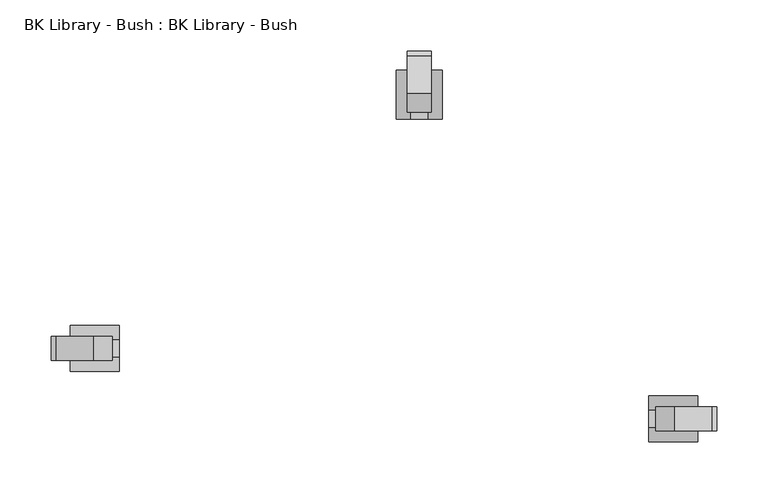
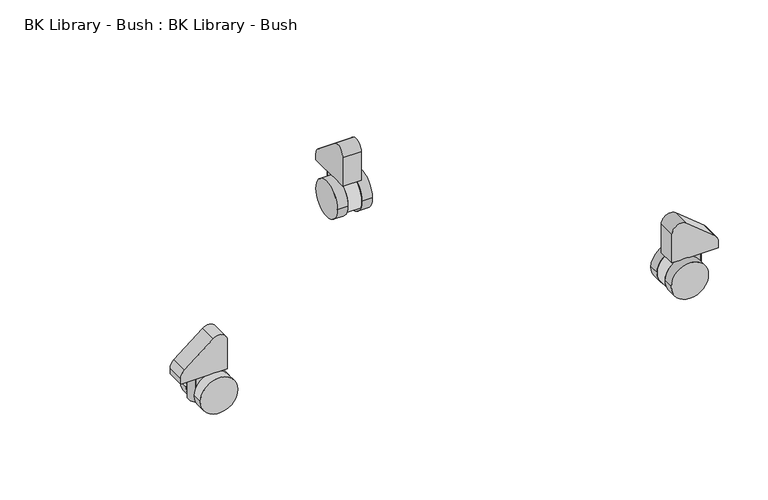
"""IFC4 building model written with IfcOpenShell, lengths in millimetres: furniture geometry, BK Library - Bush : BK Library - Bush."""

from ifc_helpers import new_model, si_unit, point, frame, frame_2d, origin, place, context, project, spatial, polyline, circle_curve, trimmed, segment, composite_curve, outline, extrude, source, transform, mapped, element, save
from ifc_brep_helpers import plane_surface, cylinder_surface, advanced_brep


def bk_library_bush_bk_library_bush_e0a5e469(model_context):
    return source(origin(), model_context, "Body", "SolidModel", [
        advanced_brep(
        [(307.0845713, -12.0, 24.0), (261.0097125, -12.0, 14.5818999), (259.0845713, -12.0, 24.0), (279.1656621, -12.0, 47.6778831), (307.0845713, -25.5, 24.0), (279.1656621, -25.5, 47.6778831), (259.0845713, -25.5, 24.0), (261.0097125, -25.5, 14.5818999)],
        [
            (0, 1, circle_curve(frame((283.0845713, -12.0, 24.0), z_axis=(0.0, 1.0, 0.0), x_axis=(-1.0, 0.0, 0.0)), 24.0)),
            (1, 2, circle_curve(frame((283.0845713, -12.0, 24.0), z_axis=(0.0, 1.0, 0.0), x_axis=(-1.0, 0.0, 0.0)), 24.0)),
            (2, 3, circle_curve(frame((283.0845713, -12.0, 24.0), z_axis=(0.0, 1.0, 0.0), x_axis=(-1.0, 0.0, 0.0)), 24.0)),
            (3, 0, circle_curve(frame((283.0845713, -12.0, 24.0), z_axis=(0.0, 1.0, 0.0), x_axis=(-1.0, 0.0, 0.0)), 24.0)),
            (4, 5, circle_curve(frame((283.0845713, -25.5, 24.0), z_axis=(0.0, -1.0, 0.0), x_axis=(-1.0, 0.0, 0.0)), 24.0)),
            (5, 6, circle_curve(frame((283.0845713, -25.5, 24.0), z_axis=(0.0, -1.0, 0.0), x_axis=(-1.0, 0.0, 0.0)), 24.0)),
            (6, 7, circle_curve(frame((283.0845713, -25.5, 24.0), z_axis=(0.0, -1.0, 0.0), x_axis=(-1.0, 0.0, 0.0)), 24.0)),
            (7, 4, circle_curve(frame((283.0845713, -25.5, 24.0), z_axis=(0.0, -1.0, 0.0), x_axis=(-1.0, 0.0, 0.0)), 24.0)),
            (0, 4),
            (6, 2),
        ],
        [
            plane_surface(frame((259.0845713, -12.0, 24.0), z_axis=(0.0, 1.0, 0.0), x_axis=(0.0, 0.0, 1.0))),
            plane_surface(frame((259.0845713, -25.5, 24.0), z_axis=(0.0, -1.0, 0.0), x_axis=(0.0, 0.0, -1.0))),
            cylinder_surface(frame((283.0845713, -25.5, 24.0), z_axis=(0.0, 1.0, 0.0), x_axis=(-1.0, 0.0, 0.0)), 24.0),
        ],
        [
            (0, [[1, 2, 3, 4]]),
            (1, [[5, 6, 7, 8]]),
            (2, [[9, -8, -7, 10, -2, -1]]),
            (2, [[-9, -4, -3, -10, -6, -5]]),
        ],
    ),
        advanced_brep(
        [(307.0845713, -43.5, 24.0), (261.0097125, -43.5, 14.5818999), (259.0845713, -43.5, 24.0), (279.1656621, -43.5, 47.6778831), (307.0845713, -57.0, 24.0), (279.1656621, -57.0, 47.6778831), (259.0845713, -57.0, 24.0), (261.0097125, -57.0, 14.5818999)],
        [
            (0, 1, circle_curve(frame((283.0845713, -43.5, 24.0), z_axis=(0.0, 1.0, 0.0), x_axis=(-1.0, 0.0, 0.0)), 24.0)),
            (1, 2, circle_curve(frame((283.0845713, -43.5, 24.0), z_axis=(0.0, 1.0, 0.0), x_axis=(-1.0, 0.0, 0.0)), 24.0)),
            (2, 3, circle_curve(frame((283.0845713, -43.5, 24.0), z_axis=(0.0, 1.0, 0.0), x_axis=(-1.0, 0.0, 0.0)), 24.0)),
            (3, 0, circle_curve(frame((283.0845713, -43.5, 24.0), z_axis=(0.0, 1.0, 0.0), x_axis=(-1.0, 0.0, 0.0)), 24.0)),
            (4, 5, circle_curve(frame((283.0845713, -57.0, 24.0), z_axis=(0.0, -1.0, 0.0), x_axis=(-1.0, 0.0, 0.0)), 24.0)),
            (5, 6, circle_curve(frame((283.0845713, -57.0, 24.0), z_axis=(0.0, -1.0, 0.0), x_axis=(-1.0, 0.0, 0.0)), 24.0)),
            (6, 7, circle_curve(frame((283.0845713, -57.0, 24.0), z_axis=(0.0, -1.0, 0.0), x_axis=(-1.0, 0.0, 0.0)), 24.0)),
            (7, 4, circle_curve(frame((283.0845713, -57.0, 24.0), z_axis=(0.0, -1.0, 0.0), x_axis=(-1.0, 0.0, 0.0)), 24.0)),
            (0, 4),
            (6, 2),
        ],
        [
            plane_surface(frame((259.0845713, -43.5, 24.0), z_axis=(0.0, 1.0, 0.0), x_axis=(0.0, 0.0, 1.0))),
            plane_surface(frame((259.0845713, -57.0, 24.0), z_axis=(0.0, -1.0, 0.0), x_axis=(0.0, 0.0, -1.0))),
            cylinder_surface(frame((283.0845713, -57.0, 24.0), z_axis=(0.0, 1.0, 0.0), x_axis=(-1.0, 0.0, 0.0)), 24.0),
        ],
        [
            (0, [[1, 2, 3, 4]]),
            (1, [[5, 6, 7, 8]]),
            (2, [[9, -8, -7, 10, -2, -1]]),
            (2, [[-9, -4, -3, -10, -6, -5]]),
        ],
    ),
        advanced_brep(
        [(304.4456511, -43.5, 47.6778831), (305.4378078, -43.125, 47.6778831), (305.4378078, -25.875, 47.6778831), (304.4456511, -25.5, 47.6778831), (279.1656621, -25.5, 47.6778831), (279.1656621, -43.5, 47.6778831), (304.4456511, -25.5, 14.5818999), (305.4378078, -25.875, 14.5818999), (305.4378078, -43.125, 14.5818999), (304.4456511, -43.5, 14.5818999), (261.0097125, -43.5, 14.5818999), (261.0097125, -25.5, 14.5818999)],
        [
            (0, 1, circle_curve(frame((304.4456511, -42.0, 47.6778831), z_axis=(0.0, 0.0, 1.0), x_axis=(-1.0, 0.0, 0.0)), 1.5)),
            (1, 2, circle_curve(frame((297.8312728, -34.5, 47.6778831), z_axis=(0.0, 0.0, 1.0), x_axis=(-0.9895943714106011, -0.14388530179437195, 0.0)), 11.5)),
            (2, 3, circle_curve(frame((304.4456511, -27.0, 47.6778831), z_axis=(0.0, 0.0, 1.0), x_axis=(-1.0, 0.0, 0.0)), 1.5)),
            (3, 4),
            (4, 5),
            (5, 0),
            (6, 7, circle_curve(frame((304.4456511, -27.0, 14.5818999), z_axis=(0.0, 0.0, -1.0), x_axis=(-1.0, 0.0, 0.0)), 1.5)),
            (7, 8, circle_curve(frame((297.8312728, -34.5, 14.5818999), z_axis=(0.0, 0.0, -1.0), x_axis=(-0.9895943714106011, -0.14388530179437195, 0.0)), 11.5)),
            (8, 9, circle_curve(frame((304.4456511, -42.0, 14.5818999), z_axis=(0.0, 0.0, -1.0), x_axis=(-1.0, 0.0, 0.0)), 1.5)),
            (9, 10),
            (10, 11),
            (11, 6),
            (9, 0),
            (5, 10, circle_curve(frame((283.0845713, -43.5, 24.0), z_axis=(0.0, -1.0, 0.0), x_axis=(-1.0, 0.0, 0.0)), 24.0)),
            (1, 8),
            (7, 2),
            (3, 6),
            (11, 4, circle_curve(frame((283.0845713, -25.5, 24.0), z_axis=(0.0, 1.0, 0.0), x_axis=(-1.0, 0.0, 0.0)), 24.0)),
        ],
        [
            plane_surface(frame((304.9901834, -43.5, 47.6778831), z_axis=(0.0, 0.0, 1.0), x_axis=(1.0, 0.0, 0.0))),
            plane_surface(frame((304.9901834, -43.5, 14.5818999), z_axis=(0.0, 0.0, -1.0), x_axis=(-1.0, 0.0, 0.0))),
            plane_surface(frame((258.3703709, -43.5, 47.6778831), z_axis=(0.0, -1.0, 0.0), x_axis=(0.0, 0.0, -1.0))),
            cylinder_surface(frame((297.8312728, -34.5, 14.5818999), z_axis=(0.0, 0.0, 1.0000000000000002), x_axis=(-0.9895943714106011, -0.14388530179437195, 0.0)), 11.5),
            plane_surface(frame((304.4456511, -25.5, 47.6778831), z_axis=(0.0, 1.0, 0.0), x_axis=(0.0, 0.0, -1.0))),
            cylinder_surface(frame((304.4456511, -42.0, 14.5818999), z_axis=(0.0, 0.0, 1.0), x_axis=(-1.0, 0.0, 0.0)), 1.5),
            cylinder_surface(frame((304.4456511, -27.0, 14.5818999), z_axis=(0.0, 0.0, 1.0), x_axis=(-1.0, 0.0, 0.0)), 1.5),
            cylinder_surface(frame((283.0845713, -97.270464, 24.0), z_axis=(0.0, -1.0, 0.0), x_axis=(-1.0, 0.0, 0.0)), 24.0),
        ],
        [
            (0, [[1, 2, 3, 4, 5, 6]]),
            (1, [[7, 8, 9, 10, 11, 12]]),
            (2, [[13, -6, 14, -10]]),
            (3, [[-2, 15, -8, 16]]),
            (4, [[17, -12, 18, -4]]),
            (5, [[-1, -13, -9, -15]]),
            (6, [[-3, -16, -7, -17]]),
            (7, [[-5, -18, -11, -14]]),
        ],
    ),
        advanced_brep(
        [(321.3539823, -23.0, 65.3227941), (326.0, -23.0, 55.5979035), (325.9997219, -23.0, 47.6778831), (279.1656621, -23.0, 47.6778831), (266.0, -23.0, 47.6778831), (266.0, -23.0, 86.3778831), (284.4, -23.0, 95.1687875), (321.3539823, -46.5, 65.3227941), (284.4, -46.5, 95.1687875), (266.0, -46.5, 86.3778831), (266.0, -46.5, 47.6778831), (279.1656621, -46.5, 47.6778831), (325.9997219, -46.5, 47.6778831), (326.0, -46.5, 55.5979035)],
        [
            (0, 1, circle_curve(frame((313.5, -23.0, 55.5983424), z_axis=(0.0, 1.0, 0.0), x_axis=(-0.999999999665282, 0.0, 2.587346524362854e-05)), 12.5)),
            (1, 2),
            (2, 3),
            (3, 4),
            (4, 5),
            (5, 6, circle_curve(frame((277.3, -23.0, 86.3778831), z_axis=(0.0, 1.0, 0.0), x_axis=(-0.999999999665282, 0.0, 2.5873465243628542e-05)), 11.3)),
            (6, 0),
            (7, 8),
            (8, 9, circle_curve(frame((277.3, -46.5, 86.3778831), z_axis=(0.0, -1.0, 0.0), x_axis=(-0.999999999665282, 0.0, 2.5873465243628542e-05)), 11.3)),
            (9, 10),
            (10, 11),
            (11, 12),
            (12, 13),
            (13, 7, circle_curve(frame((313.5, -46.5, 55.5983424), z_axis=(0.0, -1.0, 0.0), x_axis=(-0.999999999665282, 0.0, 2.587346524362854e-05)), 12.5)),
            (0, 7),
            (13, 1),
            (12, 2),
            (10, 4),
            (9, 5),
            (8, 6),
        ],
        [
            plane_surface(frame((301.0, -23.0, 55.5986658), z_axis=(0.0, 1.0000000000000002, 0.0), x_axis=(2.5873465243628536e-05, 0.0, 0.999999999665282))),
            plane_surface(frame((301.0, -46.5, 55.5986658), z_axis=(0.0, -1.0000000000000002, 0.0), x_axis=(-2.5873465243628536e-05, 0.0, -0.999999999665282))),
            cylinder_surface(frame((313.5, -46.5, 55.5983424), z_axis=(0.0, 1.0000000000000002, 0.0), x_axis=(-0.999999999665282, 0.0, 2.587346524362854e-05)), 12.5),
            plane_surface(frame((326.0, -23.0, 55.5979035), z_axis=(0.9999999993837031, 0.0, -3.510831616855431e-05), x_axis=(0.0, -1.0, 0.0))),
            plane_surface(frame((325.9997219, -23.0, 47.6778831), z_axis=(0.0, 0.0, -1.0), x_axis=(0.0, -1.0, 0.0))),
            plane_surface(frame((266.0, -23.0, 47.6778831), z_axis=(-1.0, 0.0, 0.0), x_axis=(0.0, -1.0, 0.0))),
            cylinder_surface(frame((277.3, -46.5, 86.3778831), z_axis=(0.0, 1.0000000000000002, 0.0), x_axis=(-0.999999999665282, 0.0, 2.5873465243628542e-05)), 11.3),
            plane_surface(frame((284.4, -23.0, 95.1687875), z_axis=(0.6283185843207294, 0.0, 0.7779561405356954), x_axis=(0.0, -1.0, 0.0))),
        ],
        [
            (0, [[1, 2, 3, 4, 5, 6, 7]]),
            (1, [[8, 9, 10, 11, 12, 13, 14]]),
            (2, [[-1, 15, -14, 16]]),
            (3, [[-2, -16, -13, 17]]),
            (4, [[-17, -12, -11, 18, -4, -3]]),
            (5, [[-5, -18, -10, 19]]),
            (6, [[-6, -19, -9, 20]]),
            (7, [[-7, -20, -8, -15]]),
        ],
    ),
        advanced_brep(
        [(12.0, 307.0845713, 24.0), (12.0, 261.0097125, 14.5818999), (12.0, 259.0845713, 24.0), (12.0, 279.1656621, 47.6778831), (25.5, 307.0845713, 24.0), (25.5, 279.1656621, 47.6778831), (25.5, 259.0845713, 24.0), (25.5, 261.0097125, 14.5818999)],
        [
            (0, 1, circle_curve(frame((12.0, 283.0845713, 24.0), z_axis=(-1.0, 0.0, 0.0), x_axis=(0.0, -1.0, 0.0)), 24.0)),
            (1, 2, circle_curve(frame((12.0, 283.0845713, 24.0), z_axis=(-1.0, 0.0, 0.0), x_axis=(0.0, -1.0, 0.0)), 24.0)),
            (2, 3, circle_curve(frame((12.0, 283.0845713, 24.0), z_axis=(-1.0, 0.0, 0.0), x_axis=(0.0, -1.0, 0.0)), 24.0)),
            (3, 0, circle_curve(frame((12.0, 283.0845713, 24.0), z_axis=(-1.0, 0.0, 0.0), x_axis=(0.0, -1.0, 0.0)), 24.0)),
            (4, 5, circle_curve(frame((25.5, 283.0845713, 24.0), z_axis=(1.0, 0.0, 0.0), x_axis=(0.0, -1.0, 0.0)), 24.0)),
            (5, 6, circle_curve(frame((25.5, 283.0845713, 24.0), z_axis=(1.0, 0.0, 0.0), x_axis=(0.0, -1.0, 0.0)), 24.0)),
            (6, 7, circle_curve(frame((25.5, 283.0845713, 24.0), z_axis=(1.0, 0.0, 0.0), x_axis=(0.0, -1.0, 0.0)), 24.0)),
            (7, 4, circle_curve(frame((25.5, 283.0845713, 24.0), z_axis=(1.0, 0.0, 0.0), x_axis=(0.0, -1.0, 0.0)), 24.0)),
            (0, 4),
            (6, 2),
        ],
        [
            plane_surface(frame((12.0, 259.0845713, 24.0), z_axis=(-1.0, 0.0, 0.0), x_axis=(0.0, 0.0, 1.0))),
            plane_surface(frame((25.5, 259.0845713, 24.0), z_axis=(1.0, 0.0, 0.0), x_axis=(0.0, 0.0, -1.0))),
            cylinder_surface(frame((25.5, 283.0845713, 24.0), z_axis=(-1.0, 0.0, 0.0), x_axis=(0.0, -1.0, 0.0)), 24.0),
        ],
        [
            (0, [[1, 2, 3, 4]]),
            (1, [[5, 6, 7, 8]]),
            (2, [[9, -8, -7, 10, -2, -1]]),
            (2, [[-9, -4, -3, -10, -6, -5]]),
        ],
    ),
        advanced_brep(
        [(43.5, 307.0845713, 24.0), (43.5, 261.0097125, 14.5818999), (43.5, 259.0845713, 24.0), (43.5, 279.1656621, 47.6778831), (57.0, 307.0845713, 24.0), (57.0, 279.1656621, 47.6778831), (57.0, 259.0845713, 24.0), (57.0, 261.0097125, 14.5818999)],
        [
            (0, 1, circle_curve(frame((43.5, 283.0845713, 24.0), z_axis=(-1.0, 0.0, 0.0), x_axis=(0.0, -1.0, 0.0)), 24.0)),
            (1, 2, circle_curve(frame((43.5, 283.0845713, 24.0), z_axis=(-1.0, 0.0, 0.0), x_axis=(0.0, -1.0, 0.0)), 24.0)),
            (2, 3, circle_curve(frame((43.5, 283.0845713, 24.0), z_axis=(-1.0, 0.0, 0.0), x_axis=(0.0, -1.0, 0.0)), 24.0)),
            (3, 0, circle_curve(frame((43.5, 283.0845713, 24.0), z_axis=(-1.0, 0.0, 0.0), x_axis=(0.0, -1.0, 0.0)), 24.0)),
            (4, 5, circle_curve(frame((57.0, 283.0845713, 24.0), z_axis=(1.0, 0.0, 0.0), x_axis=(0.0, -1.0, 0.0)), 24.0)),
            (5, 6, circle_curve(frame((57.0, 283.0845713, 24.0), z_axis=(1.0, 0.0, 0.0), x_axis=(0.0, -1.0, 0.0)), 24.0)),
            (6, 7, circle_curve(frame((57.0, 283.0845713, 24.0), z_axis=(1.0, 0.0, 0.0), x_axis=(0.0, -1.0, 0.0)), 24.0)),
            (7, 4, circle_curve(frame((57.0, 283.0845713, 24.0), z_axis=(1.0, 0.0, 0.0), x_axis=(0.0, -1.0, 0.0)), 24.0)),
            (0, 4),
            (6, 2),
        ],
        [
            plane_surface(frame((43.5, 259.0845713, 24.0), z_axis=(-1.0, 0.0, 0.0), x_axis=(0.0, 0.0, 1.0))),
            plane_surface(frame((57.0, 259.0845713, 24.0), z_axis=(1.0, 0.0, 0.0), x_axis=(0.0, 0.0, -1.0))),
            cylinder_surface(frame((57.0, 283.0845713, 24.0), z_axis=(-1.0, 0.0, 0.0), x_axis=(0.0, -1.0, 0.0)), 24.0),
        ],
        [
            (0, [[1, 2, 3, 4]]),
            (1, [[5, 6, 7, 8]]),
            (2, [[9, -8, -7, 10, -2, -1]]),
            (2, [[-9, -4, -3, -10, -6, -5]]),
        ],
    ),
        advanced_brep(
        [(43.5, 304.4456511, 47.6778831), (43.125, 305.4378078, 47.6778831), (25.875, 305.4378078, 47.6778831), (25.5, 304.4456511, 47.6778831), (25.5, 279.1656621, 47.6778831), (43.5, 279.1656621, 47.6778831), (25.5, 304.4456511, 14.5818999), (25.875, 305.4378078, 14.5818999), (43.125, 305.4378078, 14.5818999), (43.5, 304.4456511, 14.5818999), (43.5, 261.0097125, 14.5818999), (25.5, 261.0097125, 14.5818999)],
        [
            (0, 1, circle_curve(frame((42.0, 304.4456511, 47.6778831), z_axis=(0.0, 0.0, 1.0), x_axis=(0.0, -1.0, 0.0)), 1.5)),
            (1, 2, circle_curve(frame((34.5, 297.8312728, 47.6778831), z_axis=(0.0, 0.0, 1.0), x_axis=(0.14388530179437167, -0.9895943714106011, 0.0)), 11.5)),
            (2, 3, circle_curve(frame((27.0, 304.4456511, 47.6778831), z_axis=(0.0, 0.0, 1.0), x_axis=(0.0, -1.0, 0.0)), 1.5)),
            (3, 4),
            (4, 5),
            (5, 0),
            (6, 7, circle_curve(frame((27.0, 304.4456511, 14.5818999), z_axis=(0.0, 0.0, -1.0), x_axis=(0.0, -1.0, 0.0)), 1.5)),
            (7, 8, circle_curve(frame((34.5, 297.8312728, 14.5818999), z_axis=(0.0, 0.0, -1.0), x_axis=(0.14388530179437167, -0.9895943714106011, 0.0)), 11.5)),
            (8, 9, circle_curve(frame((42.0, 304.4456511, 14.5818999), z_axis=(0.0, 0.0, -1.0), x_axis=(0.0, -1.0, 0.0)), 1.5)),
            (9, 10),
            (10, 11),
            (11, 6),
            (9, 0),
            (5, 10, circle_curve(frame((43.5, 283.0845713, 24.0), z_axis=(1.0, 0.0, 0.0), x_axis=(0.0, -1.0, 0.0)), 24.0)),
            (1, 8),
            (7, 2),
            (3, 6),
            (11, 4, circle_curve(frame((25.5, 283.0845713, 24.0), z_axis=(-1.0, 0.0, 0.0), x_axis=(0.0, -1.0, 0.0)), 24.0)),
        ],
        [
            plane_surface(frame((43.5, 304.9901834, 47.6778831), z_axis=(0.0, 0.0, 1.0), x_axis=(0.0, 1.0, 0.0))),
            plane_surface(frame((43.5, 304.9901834, 14.5818999), z_axis=(0.0, 0.0, -1.0), x_axis=(0.0, -1.0, 0.0))),
            plane_surface(frame((43.5, 258.3703709, 47.6778831), z_axis=(1.0, 0.0, 0.0), x_axis=(0.0, 0.0, -1.0))),
            cylinder_surface(frame((34.5, 297.8312728, 14.5818999), z_axis=(0.0, 0.0, 1.0000000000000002), x_axis=(0.14388530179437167, -0.9895943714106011, 0.0)), 11.5),
            plane_surface(frame((25.5, 304.4456511, 47.6778831), z_axis=(-1.0, 0.0, 0.0), x_axis=(0.0, 0.0, -1.0))),
            cylinder_surface(frame((42.0, 304.4456511, 14.5818999), z_axis=(0.0, 0.0, 1.0), x_axis=(0.0, -1.0, 0.0)), 1.5),
            cylinder_surface(frame((27.0, 304.4456511, 14.5818999), z_axis=(0.0, 0.0, 1.0), x_axis=(0.0, -1.0, 0.0)), 1.5),
            cylinder_surface(frame((97.270464, 283.0845713, 24.0), z_axis=(1.0, 0.0, 0.0), x_axis=(0.0, -1.0, 0.0)), 24.0),
        ],
        [
            (0, [[1, 2, 3, 4, 5, 6]]),
            (1, [[7, 8, 9, 10, 11, 12]]),
            (2, [[13, -6, 14, -10]]),
            (3, [[-2, 15, -8, 16]]),
            (4, [[17, -12, 18, -4]]),
            (5, [[-1, -13, -9, -15]]),
            (6, [[-3, -16, -7, -17]]),
            (7, [[-5, -18, -11, -14]]),
        ],
    ),
        advanced_brep(
        [(23.0, 321.3539823, 65.3227941), (23.0, 326.0, 55.5979035), (23.0, 325.9997219, 47.6778831), (23.0, 279.1656621, 47.6778831), (23.0, 266.0, 47.6778831), (23.0, 266.0, 86.3778831), (23.0, 284.4, 95.1687875), (46.5, 321.3539823, 65.3227941), (46.5, 284.4, 95.1687875), (46.5, 266.0, 86.3778831), (46.5, 266.0, 47.6778831), (46.5, 279.1656621, 47.6778831), (46.5, 325.9997219, 47.6778831), (46.5, 326.0, 55.5979035)],
        [
            (0, 1, circle_curve(frame((23.0, 313.5, 55.5983424), z_axis=(-1.0, 0.0, 0.0), x_axis=(0.0, -0.999999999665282, 2.587346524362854e-05)), 12.5)),
            (1, 2),
            (2, 3),
            (3, 4),
            (4, 5),
            (5, 6, circle_curve(frame((23.0, 277.3, 86.3778831), z_axis=(-1.0, 0.0, 0.0), x_axis=(0.0, -0.999999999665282, 2.5873465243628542e-05)), 11.3)),
            (6, 0),
            (7, 8),
            (8, 9, circle_curve(frame((46.5, 277.3, 86.3778831), z_axis=(1.0, 0.0, 0.0), x_axis=(0.0, -0.999999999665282, 2.5873465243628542e-05)), 11.3)),
            (9, 10),
            (10, 11),
            (11, 12),
            (12, 13),
            (13, 7, circle_curve(frame((46.5, 313.5, 55.5983424), z_axis=(1.0, 0.0, 0.0), x_axis=(0.0, -0.999999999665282, 2.587346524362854e-05)), 12.5)),
            (0, 7),
            (13, 1),
            (12, 2),
            (10, 4),
            (9, 5),
            (8, 6),
        ],
        [
            plane_surface(frame((23.0, 301.0, 55.5986658), z_axis=(-1.0000000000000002, 0.0, 0.0), x_axis=(0.0, 2.5873465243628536e-05, 0.999999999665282))),
            plane_surface(frame((46.5, 301.0, 55.5986658), z_axis=(1.0000000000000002, 0.0, 0.0), x_axis=(0.0, -2.5873465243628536e-05, -0.999999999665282))),
            cylinder_surface(frame((46.5, 313.5, 55.5983424), z_axis=(-1.0000000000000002, 0.0, 0.0), x_axis=(0.0, -0.999999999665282, 2.587346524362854e-05)), 12.5),
            plane_surface(frame((23.0, 326.0, 55.5979035), z_axis=(0.0, 0.9999999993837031, -3.510831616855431e-05), x_axis=(1.0, 0.0, 0.0))),
            plane_surface(frame((23.0, 325.9997219, 47.6778831), z_axis=(0.0, 0.0, -1.0), x_axis=(1.0, 0.0, 0.0))),
            plane_surface(frame((23.0, 266.0, 47.6778831), z_axis=(0.0, -1.0, 0.0), x_axis=(1.0, 0.0, 0.0))),
            cylinder_surface(frame((46.5, 277.3, 86.3778831), z_axis=(-1.0000000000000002, 0.0, 0.0), x_axis=(0.0, -0.999999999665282, 2.5873465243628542e-05)), 11.3),
            plane_surface(frame((23.0, 284.4, 95.1687875), z_axis=(0.0, 0.6283185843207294, 0.7779561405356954), x_axis=(1.0, 0.0, 0.0))),
        ],
        [
            (0, [[1, 2, 3, 4, 5, 6, 7]]),
            (1, [[8, 9, 10, 11, 12, 13, 14]]),
            (2, [[-1, 15, -14, 16]]),
            (3, [[-2, -16, -13, 17]]),
            (4, [[-17, -12, -11, 18, -4, -3]]),
            (5, [[-5, -18, -10, 19]]),
            (6, [[-6, -19, -9, 20]]),
            (7, [[-7, -20, -8, -15]]),
        ],
    ),
        extrude(outline(composite_curve([segment(trimmed(circle_curve(frame_2d((24.0, -283.0845713)), 24.0), [point((24.0, -307.0845713))], [point((24.0, -259.0845713))], False, "CARTESIAN"), True, "CONTINUOUS"), segment(trimmed(circle_curve(frame_2d((24.0, -283.0845713)), 24.0), [point((24.0, -259.0845713))], [point((24.0, -307.0845713))], False, "CARTESIAN"), True, "CONTINUOUS")], self_intersect=False)), frame((0.0, 12.0, 0.0), z_axis=(0.0, 1.0, 0.0), x_axis=(0.0, 0.0, 1.0)), (0.0, 0.0, 1.0), 13.5),
        extrude(outline(composite_curve([segment(trimmed(circle_curve(frame_2d((24.0, -283.0845713)), 24.0), [point((24.0, -307.0845713))], [point((24.0, -259.0845713))], False, "CARTESIAN"), True, "CONTINUOUS"), segment(trimmed(circle_curve(frame_2d((24.0, -283.0845713)), 24.0), [point((24.0, -259.0845713))], [point((24.0, -307.0845713))], False, "CARTESIAN"), True, "CONTINUOUS")], self_intersect=False)), frame((0.0, 43.5, 0.0), z_axis=(0.0, 1.0, 0.0), x_axis=(0.0, 0.0, 1.0)), (0.0, 0.0, 1.0), 13.5),
        extrude(outline(composite_curve([segment(trimmed(circle_curve(frame_2d((55.5983424, -313.5)), 12.5), [point((65.3227941, -321.3539823))], [point((55.5979035, -326.0))], False, "CARTESIAN"), True, "CONTINUOUS"), segment(polyline([(55.5979035, -326.0), (47.6778831, -325.9997219), (47.6778831, -266.0), (86.3778831, -266.0)]), True, "CONTINUOUS"), segment(trimmed(circle_curve(frame_2d((86.3778831, -277.3)), 11.3), [point((86.3778831, -266.0))], [point((95.1687875, -284.4))], False, "CARTESIAN"), True, "CONTINUOUS"), segment(polyline([(95.1687875, -284.4), (65.3227941, -321.3539823)]), True, "CONTINUOUS")], self_intersect=False)), frame((0.0, 23.0, 0.0), z_axis=(0.0, 1.0, 0.0), x_axis=(0.0, 0.0, 1.0)), (0.0, 0.0, 1.0), 23.5),
        advanced_brep(
        [(-304.4456511, 43.5, 47.6778831), (-305.4378078, 43.125, 47.6778831), (-305.4378078, 25.875, 47.6778831), (-304.4456511, 25.5, 47.6778831), (-279.1656621, 25.5, 47.6778831), (-279.1656621, 43.5, 47.6778831), (-304.4456511, 25.5, 14.5818999), (-305.4378078, 25.875, 14.5818999), (-305.4378078, 43.125, 14.5818999), (-304.4456511, 43.5, 14.5818999), (-261.0097125, 43.5, 14.5818999), (-261.0097125, 25.5, 14.5818999)],
        [
            (0, 1, circle_curve(frame((-304.4456511, 42.0, 47.6778831), z_axis=(0.0, 0.0, 1.0), x_axis=(1.0, 0.0, 0.0)), 1.5)),
            (1, 2, circle_curve(frame((-297.8312728, 34.5, 47.6778831), z_axis=(0.0, 0.0, 1.0), x_axis=(0.989594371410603, 0.14388530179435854, 0.0)), 11.5)),
            (2, 3, circle_curve(frame((-304.4456511, 27.0, 47.6778831), z_axis=(0.0, 0.0, 1.0), x_axis=(1.0, 0.0, 0.0)), 1.5)),
            (3, 4),
            (4, 5),
            (5, 0),
            (6, 7, circle_curve(frame((-304.4456511, 27.0, 14.5818999), z_axis=(0.0, 0.0, -1.0), x_axis=(1.0, 0.0, 0.0)), 1.5)),
            (7, 8, circle_curve(frame((-297.8312728, 34.5, 14.5818999), z_axis=(0.0, 0.0, -1.0), x_axis=(0.989594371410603, 0.14388530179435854, 0.0)), 11.5)),
            (8, 9, circle_curve(frame((-304.4456511, 42.0, 14.5818999), z_axis=(0.0, 0.0, -1.0), x_axis=(1.0, 0.0, 0.0)), 1.5)),
            (9, 10),
            (10, 11),
            (11, 6),
            (9, 0),
            (5, 10, circle_curve(frame((-283.0845713, 43.5, 24.0), z_axis=(0.0, 1.0, 0.0), x_axis=(1.0, 0.0, 0.0)), 24.0)),
            (1, 8),
            (7, 2),
            (3, 6),
            (11, 4, circle_curve(frame((-283.0845713, 25.5, 24.0), z_axis=(0.0, -1.0, 0.0), x_axis=(1.0, 0.0, 0.0)), 24.0)),
        ],
        [
            plane_surface(frame((-304.9901834, 43.5, 47.6778831), z_axis=(0.0, 0.0, 1.0), x_axis=(-1.0, 0.0, 0.0))),
            plane_surface(frame((-304.9901834, 43.5, 14.5818999), z_axis=(0.0, 0.0, -1.0), x_axis=(1.0, 0.0, 0.0))),
            plane_surface(frame((-258.3703709, 43.5, 47.6778831), z_axis=(0.0, 1.0, 0.0), x_axis=(0.0, 0.0, -1.0))),
            cylinder_surface(frame((-297.8312728, 34.5, 14.5818999), z_axis=(0.0, 0.0, 1.0000000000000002), x_axis=(0.989594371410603, 0.14388530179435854, 0.0)), 11.5),
            plane_surface(frame((-304.4456511, 25.5, 47.6778831), z_axis=(0.0, -1.0, 0.0), x_axis=(0.0, 0.0, -1.0))),
            cylinder_surface(frame((-304.4456511, 42.0, 14.5818999), z_axis=(0.0, 0.0, 1.0), x_axis=(1.0, 0.0, 0.0)), 1.5),
            cylinder_surface(frame((-304.4456511, 27.0, 14.5818999), z_axis=(0.0, 0.0, 1.0), x_axis=(1.0, 0.0, 0.0)), 1.5),
            cylinder_surface(frame((-283.0845713, 97.270464, 24.0), z_axis=(0.0, 1.0, 0.0), x_axis=(1.0, 0.0, 0.0)), 24.0),
        ],
        [
            (0, [[1, 2, 3, 4, 5, 6]]),
            (1, [[7, 8, 9, 10, 11, 12]]),
            (2, [[13, -6, 14, -10]]),
            (3, [[-2, 15, -8, 16]]),
            (4, [[17, -12, 18, -4]]),
            (5, [[-1, -13, -9, -15]]),
            (6, [[-3, -16, -7, -17]]),
            (7, [[-5, -18, -11, -14]]),
        ],
    ),
    ])


if __name__ == "__main__":
    model = new_model("IFC4")
    model_context = context("Model", 3, world=origin())
    ifc_project = project(units=[si_unit("LENGTHUNIT", "METRE", prefix="MILLI")], contexts=[model_context])
    site = spatial("IfcSite", under=ifc_project)
    building = spatial("IfcBuilding", under=site)
    placement = place(None, origin())
    bk_library_bush_bk_library_bush_shape = bk_library_bush_bk_library_bush_e0a5e469(model_context)
    element("IfcFurniture", 1, ObjectType="BK Library - Bush : BK Library - Bush", at=placement, inside=building, context=model_context, shape_type="MappedRepresentation", body=[
        mapped(bk_library_bush_bk_library_bush_shape, transform((0.0, 0.0, 0.0), x_axis=(1.0, 0.0, 0.0), y_axis=(0.0, 1.0, 0.0), z_axis=(0.0, 0.0, 1.0))),
    ])
    save(model, "model.ifc")
